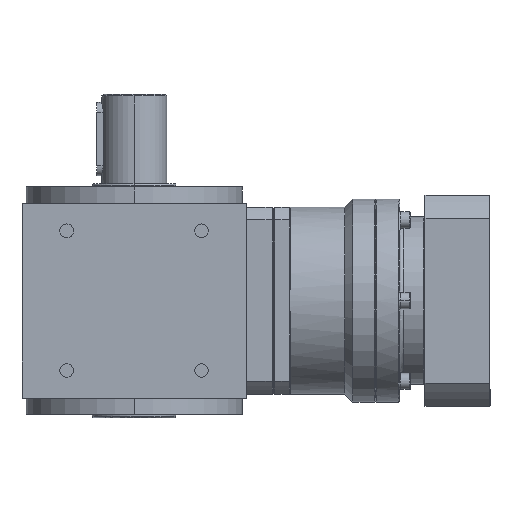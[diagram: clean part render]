
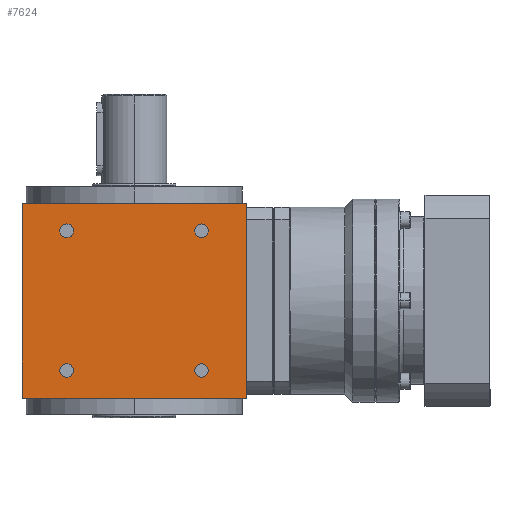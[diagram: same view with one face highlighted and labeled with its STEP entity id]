
A CAD part, left-side view. The second image highlights one B-rep face of the part: STEP entity #7624.
In plain terms, the highlighted planar face has unit normal (-1, 0, 0).
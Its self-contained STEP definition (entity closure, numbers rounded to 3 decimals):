
#108 = DIRECTION ( 'NONE',  ( -1., 0., 0. ) ) ;
#397 = DIRECTION ( 'NONE',  ( 1., 0., 0. ) ) ;
#974 = VECTOR ( 'NONE', #10384, 1000. ) ;
#1009 = EDGE_CURVE ( 'NONE', #27082, #30277, #26642, .T. ) ;
#1156 = CIRCLE ( 'NONE', #22749, 4.2 ) ;
#1194 = CARTESIAN_POINT ( 'NONE',  ( -69., -69., 60. ) ) ;
#1574 = DIRECTION ( 'NONE',  ( 0., -1., 0. ) ) ;
#1924 = DIRECTION ( 'NONE',  ( 0., -1., 0. ) ) ;
#2438 = FACE_OUTER_BOUND ( 'NONE', #8729, .T. ) ;
#2591 = FACE_BOUND ( 'NONE', #6809, .T. ) ;
#2602 = EDGE_LOOP ( 'NONE', ( #24198, #8211 ) ) ;
#2853 = AXIS2_PLACEMENT_3D ( 'NONE', #15945, #2918, #13482 ) ;
#2918 = DIRECTION ( 'NONE',  ( 1., 0., 0. ) ) ;
#2933 = DIRECTION ( 'NONE',  ( 0., 0., 1. ) ) ;
#3039 = DIRECTION ( 'NONE',  ( 1., 0., 0. ) ) ;
#3213 = EDGE_CURVE ( 'NONE', #27545, #8032, #9483, .T. ) ;
#3473 = AXIS2_PLACEMENT_3D ( 'NONE', #31267, #23843, #1574 ) ;
#3480 = CARTESIAN_POINT ( 'NONE',  ( -69., 45.7, -43. ) ) ;
#3493 = DIRECTION ( 'NONE',  ( 1., 0., 0. ) ) ;
#3717 = EDGE_CURVE ( 'NONE', #5006, #20183, #19470, .T. ) ;
#4049 = CARTESIAN_POINT ( 'NONE',  ( -69., 69., -60. ) ) ;
#4283 = CARTESIAN_POINT ( 'NONE',  ( -69., 45.7, 43. ) ) ;
#4349 = VERTEX_POINT ( 'NONE', #19407 ) ;
#4421 = ORIENTED_EDGE ( 'NONE', *, *, #4714, .T. ) ;
#4714 = EDGE_CURVE ( 'NONE', #20183, #5006, #20869, .T. ) ;
#4735 = FACE_BOUND ( 'NONE', #2602, .T. ) ;
#5006 = VERTEX_POINT ( 'NONE', #4283 ) ;
#5273 = ORIENTED_EDGE ( 'NONE', *, *, #17949, .T. ) ;
#5524 = ORIENTED_EDGE ( 'NONE', *, *, #11522, .T. ) ;
#5601 = LINE ( 'NONE', #7729, #974 ) ;
#5748 = DIRECTION ( 'NONE',  ( 1., 0., 0. ) ) ;
#5961 = AXIS2_PLACEMENT_3D ( 'NONE', #8307, #21020, #13260 ) ;
#6809 = EDGE_LOOP ( 'NONE', ( #5524, #18324 ) ) ;
#6899 = VECTOR ( 'NONE', #13522, 1000. ) ;
#7624 = ADVANCED_FACE ( 'NONE', ( #22070, #2591, #4735, #22222, #2438 ), #30307, .T. ) ;
#7729 = CARTESIAN_POINT ( 'NONE',  ( -69., 69., -60. ) ) ;
#7972 = EDGE_CURVE ( 'NONE', #30277, #10197, #24518, .T. ) ;
#8032 = VERTEX_POINT ( 'NONE', #17402 ) ;
#8211 = ORIENTED_EDGE ( 'NONE', *, *, #20711, .T. ) ;
#8307 = CARTESIAN_POINT ( 'NONE',  ( -69., 41.5, -43. ) ) ;
#8583 = AXIS2_PLACEMENT_3D ( 'NONE', #13256, #3039, #28295 ) ;
#8729 = EDGE_LOOP ( 'NONE', ( #23715, #13077, #8947, #21272 ) ) ;
#8947 = ORIENTED_EDGE ( 'NONE', *, *, #1009, .F. ) ;
#9457 = AXIS2_PLACEMENT_3D ( 'NONE', #16027, #30702, #31034 ) ;
#9483 = CIRCLE ( 'NONE', #21118, 4.2 ) ;
#10022 = ORIENTED_EDGE ( 'NONE', *, *, #3717, .T. ) ;
#10032 = VERTEX_POINT ( 'NONE', #23644 ) ;
#10197 = VERTEX_POINT ( 'NONE', #1194 ) ;
#10384 = DIRECTION ( 'NONE',  ( 0., -1., 0. ) ) ;
#10698 = CIRCLE ( 'NONE', #5961, 4.2 ) ;
#10712 = EDGE_CURVE ( 'NONE', #27082, #15567, #5601, .T. ) ;
#11212 = CIRCLE ( 'NONE', #2853, 4.2 ) ;
#11522 = EDGE_CURVE ( 'NONE', #8032, #27545, #26008, .T. ) ;
#11876 = CIRCLE ( 'NONE', #16094, 4.2 ) ;
#12021 = CARTESIAN_POINT ( 'NONE',  ( -69., 37.3, 43. ) ) ;
#12245 = EDGE_CURVE ( 'NONE', #4349, #21402, #11212, .T. ) ;
#12646 = CARTESIAN_POINT ( 'NONE',  ( -69., 69., -60. ) ) ;
#13077 = ORIENTED_EDGE ( 'NONE', *, *, #7972, .F. ) ;
#13256 = CARTESIAN_POINT ( 'NONE',  ( -69., -41.5, 43. ) ) ;
#13260 = DIRECTION ( 'NONE',  ( 0., -1., 0. ) ) ;
#13482 = DIRECTION ( 'NONE',  ( 0., -1., 0. ) ) ;
#13522 = DIRECTION ( 'NONE',  ( 0., 0., 1. ) ) ;
#14067 = VECTOR ( 'NONE', #1924, 1000. ) ;
#15525 = EDGE_LOOP ( 'NONE', ( #4421, #10022 ) ) ;
#15567 = VERTEX_POINT ( 'NONE', #25040 ) ;
#15642 = EDGE_CURVE ( 'NONE', #15567, #10197, #15801, .T. ) ;
#15801 = LINE ( 'NONE', #28002, #25106 ) ;
#15945 = CARTESIAN_POINT ( 'NONE',  ( -69., -41.5, -43. ) ) ;
#16025 = DIRECTION ( 'NONE',  ( 0., -1., 0. ) ) ;
#16027 = CARTESIAN_POINT ( 'NONE',  ( -69., 41.5, 43. ) ) ;
#16094 = AXIS2_PLACEMENT_3D ( 'NONE', #28559, #3493, #16025 ) ;
#16685 = AXIS2_PLACEMENT_3D ( 'NONE', #12646, #108, #19905 ) ;
#17402 = CARTESIAN_POINT ( 'NONE',  ( -69., -45.7, 43. ) ) ;
#17949 = EDGE_CURVE ( 'NONE', #10032, #29352, #10698, .T. ) ;
#18324 = ORIENTED_EDGE ( 'NONE', *, *, #3213, .T. ) ;
#18447 = DIRECTION ( 'NONE',  ( 0., -1., 0. ) ) ;
#19407 = CARTESIAN_POINT ( 'NONE',  ( -69., -45.7, -43. ) ) ;
#19470 = CIRCLE ( 'NONE', #9457, 4.2 ) ;
#19905 = DIRECTION ( 'NONE',  ( 0., -1., 0. ) ) ;
#20183 = VERTEX_POINT ( 'NONE', #12021 ) ;
#20711 = EDGE_CURVE ( 'NONE', #21402, #4349, #11876, .T. ) ;
#20869 = CIRCLE ( 'NONE', #3473, 4.2 ) ;
#21020 = DIRECTION ( 'NONE',  ( 1., 0., 0. ) ) ;
#21084 = CARTESIAN_POINT ( 'NONE',  ( -69., 41.5, -43. ) ) ;
#21118 = AXIS2_PLACEMENT_3D ( 'NONE', #24810, #397, #22334 ) ;
#21272 = ORIENTED_EDGE ( 'NONE', *, *, #10712, .T. ) ;
#21402 = VERTEX_POINT ( 'NONE', #26646 ) ;
#22070 = FACE_BOUND ( 'NONE', #27692, .T. ) ;
#22222 = FACE_BOUND ( 'NONE', #15525, .T. ) ;
#22334 = DIRECTION ( 'NONE',  ( 0., -1., 0. ) ) ;
#22489 = CARTESIAN_POINT ( 'NONE',  ( -69., -37.3, 43. ) ) ;
#22749 = AXIS2_PLACEMENT_3D ( 'NONE', #21084, #5748, #18447 ) ;
#23644 = CARTESIAN_POINT ( 'NONE',  ( -69., 37.3, -43. ) ) ;
#23715 = ORIENTED_EDGE ( 'NONE', *, *, #15642, .T. ) ;
#23843 = DIRECTION ( 'NONE',  ( 1., 0., 0. ) ) ;
#24198 = ORIENTED_EDGE ( 'NONE', *, *, #12245, .T. ) ;
#24355 = CARTESIAN_POINT ( 'NONE',  ( -69., 69., -60. ) ) ;
#24518 = LINE ( 'NONE', #29784, #14067 ) ;
#24689 = ORIENTED_EDGE ( 'NONE', *, *, #30879, .T. ) ;
#24810 = CARTESIAN_POINT ( 'NONE',  ( -69., -41.5, 43. ) ) ;
#25040 = CARTESIAN_POINT ( 'NONE',  ( -69., -69., -60. ) ) ;
#25106 = VECTOR ( 'NONE', #2933, 1000. ) ;
#26008 = CIRCLE ( 'NONE', #8583, 4.2 ) ;
#26642 = LINE ( 'NONE', #4049, #6899 ) ;
#26646 = CARTESIAN_POINT ( 'NONE',  ( -69., -37.3, -43. ) ) ;
#27082 = VERTEX_POINT ( 'NONE', #24355 ) ;
#27545 = VERTEX_POINT ( 'NONE', #22489 ) ;
#27692 = EDGE_LOOP ( 'NONE', ( #5273, #24689 ) ) ;
#28002 = CARTESIAN_POINT ( 'NONE',  ( -69., -69., -60. ) ) ;
#28295 = DIRECTION ( 'NONE',  ( 0., -1., 0. ) ) ;
#28559 = CARTESIAN_POINT ( 'NONE',  ( -69., -41.5, -43. ) ) ;
#29352 = VERTEX_POINT ( 'NONE', #3480 ) ;
#29784 = CARTESIAN_POINT ( 'NONE',  ( -69., 0., 60. ) ) ;
#30277 = VERTEX_POINT ( 'NONE', #30372 ) ;
#30307 = PLANE ( 'NONE',  #16685 ) ;
#30372 = CARTESIAN_POINT ( 'NONE',  ( -69., 69., 60. ) ) ;
#30702 = DIRECTION ( 'NONE',  ( 1., 0., 0. ) ) ;
#30879 = EDGE_CURVE ( 'NONE', #29352, #10032, #1156, .T. ) ;
#31034 = DIRECTION ( 'NONE',  ( 0., -1., 0. ) ) ;
#31267 = CARTESIAN_POINT ( 'NONE',  ( -69., 41.5, 43. ) ) ;
